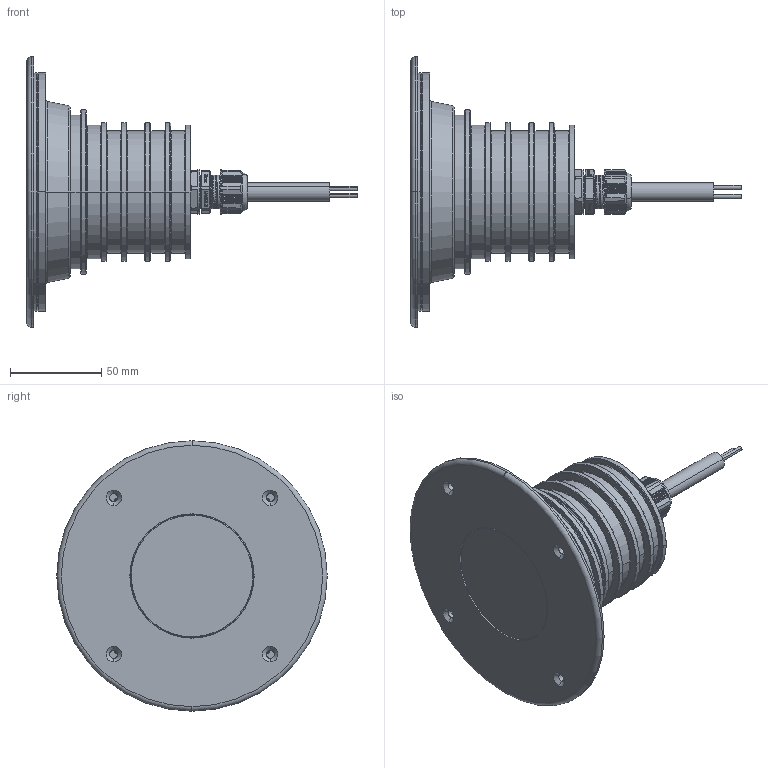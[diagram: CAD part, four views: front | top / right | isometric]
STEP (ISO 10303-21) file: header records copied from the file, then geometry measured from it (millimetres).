
FILE_DESCRIPTION (( 'STEP AP203' ), '1' );
FILE_NAME ('GROUND MEDIUM RD.STEP', '2023-04-03T13:17:50', ( '' ), ( '' ), 'SwSTEP 2.0', 'SolidWorks 2017', '' );
FILE_SCHEMA (( 'CONFIG_CONTROL_DESIGN' ));
Products named in the file (1): GROUND MEDIUM RD
Bounding box: 180.72 x 148 x 148 mm (x, y, z)
Surface area: 148260.7 mm2 (no closed solid volume)
Topology: 0 solids, 22 shells, 1697 faces, 4197 edges, 2621 vertices
Faces by surface type: plane 752, bspline 459, cylinder 260, cone 212, torus 14
Full cylindrical faces by diameter (mm): 16.6 x2
Entity records: 65746 total; most frequent: CARTESIAN_POINT 29833, ORIENTED_EDGE 8325, DIRECTION 6044, EDGE_CURVE 4170, VERTEX_POINT 2618, AXIS2_PLACEMENT_3D 2039, VECTOR 1966, LINE 1966
